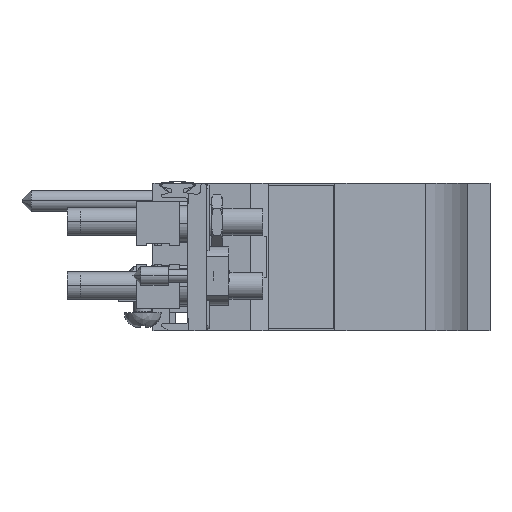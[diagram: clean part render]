
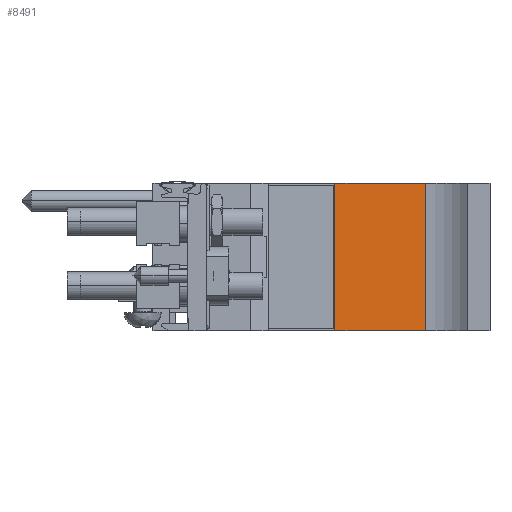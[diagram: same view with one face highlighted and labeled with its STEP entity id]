
A CAD part, front view. The second image highlights one B-rep face of the part: STEP entity #8491.
In plain terms, the highlighted planar face has unit normal (0.065, -0.998, 0).
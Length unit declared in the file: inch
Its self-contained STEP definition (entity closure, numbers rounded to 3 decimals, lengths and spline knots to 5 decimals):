
#316=DIRECTION('',(-0.998,-0.065,0.));
#317=VECTOR('',#316,0.48638);
#318=CARTESIAN_POINT('',(1.29144,3.75062,-0.155));
#319=LINE('',#318,#317);
#750=DIRECTION('',(-0.998,-0.065,0.));
#751=VECTOR('',#750,0.48638);
#752=CARTESIAN_POINT('',(1.29144,3.75062,0.633));
#753=LINE('',#752,#751);
#1060=DIRECTION('',(0.,0.,1.));
#1061=VECTOR('',#1060,0.788);
#1062=CARTESIAN_POINT('',(0.8061,3.71884,-0.155));
#1063=LINE('',#1062,#1061);
#1064=DIRECTION('',(0.,0.,-1.));
#1065=VECTOR('',#1064,0.788);
#1066=CARTESIAN_POINT('',(1.29144,3.75062,0.633));
#1067=LINE('',#1066,#1065);
#6520=CARTESIAN_POINT('',(1.29144,3.75062,-0.155));
#6521=VERTEX_POINT('',#6520);
#6526=CARTESIAN_POINT('',(1.29144,3.75062,0.633));
#6527=VERTEX_POINT('',#6526);
#6638=CARTESIAN_POINT('',(0.8061,3.71884,-0.155));
#6639=VERTEX_POINT('',#6638);
#6646=CARTESIAN_POINT('',(0.8061,3.71884,0.633));
#6647=VERTEX_POINT('',#6646);
#8479=CARTESIAN_POINT('',(1.29144,3.75062,0.633));
#8480=DIRECTION('',(-0.065,0.998,0.));
#8481=DIRECTION('',(-0.998,-0.065,0.));
#8482=AXIS2_PLACEMENT_3D('',#8479,#8480,#8481);
#8483=PLANE('',#8482);
#8485=ORIENTED_EDGE('',*,*,#8484,.T.);
#8486=ORIENTED_EDGE('',*,*,#7982,.F.);
#8487=ORIENTED_EDGE('',*,*,#8472,.T.);
#8488=ORIENTED_EDGE('',*,*,#7566,.T.);
#8489=EDGE_LOOP('',(#8485,#8486,#8487,#8488));
#8490=FACE_OUTER_BOUND('',#8489,.F.);
#8491=ADVANCED_FACE('',(#8490),#8483,.F.);
#7566=EDGE_CURVE('',#6521,#6639,#319,.T.);
#7982=EDGE_CURVE('',#6527,#6647,#753,.T.);
#8472=EDGE_CURVE('',#6527,#6521,#1067,.T.);
#8484=EDGE_CURVE('',#6639,#6647,#1063,.T.);
